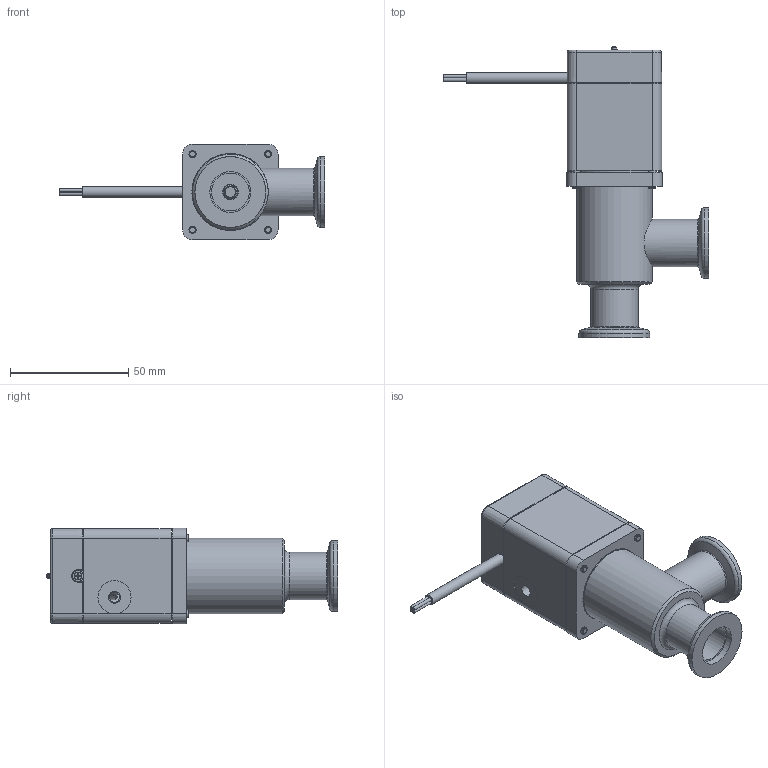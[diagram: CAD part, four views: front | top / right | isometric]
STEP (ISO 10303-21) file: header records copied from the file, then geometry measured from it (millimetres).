
FILE_DESCRIPTION(/* description */ (''),/* implementation_level */ '2;1');
FILE_NAME(/* name */ '1182776788_203.stp',/* time_stamp */ '2013-10-23T09:17:36+02:00',/* author */ (''),/* organization */ (''),/* preprocessor_version */ 'ST-DEVELOPER v11',/* originating_system */ 'SIEMENS PLM Software NX 7.5',/* authorisation */ '');
FILE_SCHEMA (('AP203_CONFIGURATION_CONTROLLED_3D_DESIGN_OF_MECHANICAL_PARTS_AND_ASSEMBLIES_MIM_LF'));
Length unit declared in the file: millimetre
Products named in the file (13): 236208.2; 233364; 239888_6.1; 236204_1.1; 245709.2; 245708.5; 245707.4; 243880.7; 244224.1; 244168.6; 402885_NX-ARRAGMNTLAGEMELDERZEICHNUNG; 245706.10; 324565
Assembly tree (17 placements, depth 3):
  324565
    244168.6
    244224.1  x4
    243880.7
    245706.10
      245707.4
      245708.5
      245709.2
    402885_NX-ARRAGMNTLAGEMELDERZEICHNUNG
      236204_1.1  x2
      239888_6.1
      233364
      236208.2  x2
Bounding box: 112.43 x 123.1 x 40.4 mm (x, y, z)
Volume: 73141 mm3; surface area: 53469.5 mm2
Topology: 23 solids, 23 shells, 605 faces, 1457 edges, 950 vertices
Faces by surface type: plane 345, cylinder 152, cone 66, bspline 25, torus 15, sphere 2
Full cylindrical faces by diameter (mm): 1.4 x8, 2 x7, 2.2 x4, 2.3 x1, 2.36 x4, 2.4 x4, 2.5 x3, 3 x19, 3.4 x4, 4 x2, 4.2 x1, 4.6 x1, 4.7 x3, 4.8 x1, 5 x2, 5.5 x4, 5.6 x2, 6 x4, 6.013 x2, 6.5 x4, 8.85 x1, 14 x1, 16 x3, 17 x1, 17.3 x2, 20 x3, 28 x1, 29.896 x1, 29.912 x1, 30.08 x1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
Entity records: 16348 total; most frequent: CARTESIAN_POINT 3334, DIRECTION 2341, ORIENTED_EDGE 2102, EDGE_CURVE 1051, AXIS2_PLACEMENT_3D 863, VERTEX_POINT 772, EDGE_LOOP 736, LINE 615
